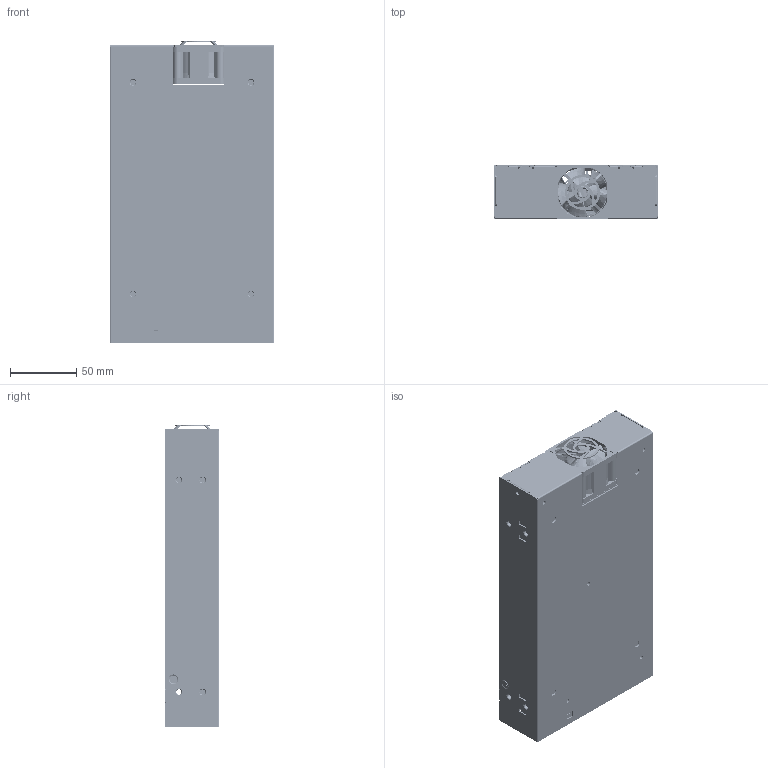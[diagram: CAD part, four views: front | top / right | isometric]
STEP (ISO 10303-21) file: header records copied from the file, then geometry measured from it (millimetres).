
FILE_DESCRIPTION((''),'2;1');
FILE_NAME('STP_PMR-XXV600W1BT_ASM','2025-07-09T19:02:36',('EUNICE.HUANG'),(''),'CREO PARAMETRIC BY PTC INC, 2023294','CREO PARAMETRIC BY PTC INC, 2023294','');
FILE_SCHEMA(('CONFIG_CONTROL_DESIGN'));
Products named in the file (588): CHASSIS_1; STANF-OFF-M3-4_3_1; STANF-OFF-M3_5_5_1; 324859810000_1; 330848870000_ASM_1_ASM; 330848850000_1; 324859800000_1; COVER_ASM_1_ASM; IMPELLER_1; 4028AIFRAME_1; 4028SERIES_B-ASM_ASM_1_ASM; 4028SERIES-ASM_ASM_1_ASM; BOARD_1; 3466844702_1; TM104-3466844702_ASM_1_ASM; TM104_ASM_1_ASM; CX1-1604218A73_1; CX1_ASM_1_ASM; 3466635800-21431_1; 3466635800-21421_ASM_1_ASM; TM102_ASM_1_ASM; 3466584500_1; TM103-3466584500_ASM_1_ASM; TM103_ASM_1_ASM; RL1-0720725197_1; RL1_ASM_1_ASM; 1552491286-26536_1; 1552491286-26526_ASM_1_ASM; C40_ASM_1_ASM; 2921994000_1; FB43_ASM_1_ASM; 145411810240_L_1_1; 145411810240_L_2_1; 145411810240_L_3_1; 145411810240_L_ASM_1_ASM; C1_ASM_1_ASM; C7_ASM_1_ASM; C9_ASM_1_ASM; 3411010800_1; J12_ASM_1_ASM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
Assembly tree (909 placements, depth 10):
  STP_PMR-XXV600W1BT_ASM
    600W_ASM_1_ASM
      330848870000_ASM_1_ASM
        CHASSIS_1
        STANF-OFF-M3-4_3_1  x3
        STANF-OFF-M3_5_5_1  x2
        324859810000_1
      COVER_ASM_1_ASM
        330848850000_1
        324859800000_1
      4028SERIES-ASM_ASM_1_ASM
        4028SERIES_B-ASM_ASM_1_ASM
          IMPELLER_1
          4028AIFRAME_1
      PMR-12V600W1BTR2C0-1227-3_ASM_1_ASM
        PCB_ASM_1_ASM
          BOARD_1
          TM104_ASM_1_ASM
            TM104-3466844702_ASM_1_ASM
              3466844702_1
          CX1_ASM_1_ASM
            CX1-1604218A73_1
          TM102_ASM_1_ASM
            3466635800-21421_ASM_1_ASM
              3466635800-21431_1
          TM103_ASM_1_ASM
            TM103-3466584500_ASM_1_ASM
              3466584500_1
          RL1_ASM_1_ASM
            RL1-0720725197_1
          C40_ASM_1_ASM
            1552491286-26526_ASM_1_ASM
              1552491286-26536_1
          FB43_ASM_1_ASM
            2921994000_1
          C1_ASM_1_ASM
            145411810240_L_ASM_1_ASM
              145411810240_L_1_1
              145411810240_L_2_1
              145411810240_L_3_1
          C7_ASM_1_ASM
            1552491286-26526_ASM_1_ASM
              1552491286-26536_1
          C9_ASM_1_ASM
            1552491286-26526_ASM_1_ASM
              1552491286-26536_1
          J12_ASM_1_ASM
            3411010800_1
          C2_ASM_1_ASM
            145411810240_L_ASM_1_ASM
              145411810240_L_1_1
              145411810240_L_2_1
              145411810240_L_3_1
          D105_ASM_1_ASM
            204840750107_1
          J36_ASM_1_ASM
            3411010400_1
          CY5_ASM_1_ASM
            _CY5CY6-110134926400_1
          FB54_ASM_1_ASM
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Bounding box: 124 x 41 x 228.5 mm (x, y, z)
Volume: 299898.4 mm3; surface area: 497414.9 mm2
Topology: 638 solids, 638 shells, 22445 faces, 59237 edges, 37862 vertices
Faces by surface type: plane 11798, cylinder 7098, torus 1940, bspline 1127, cone 260, sphere 151, revolution 42, extrusion 29
Entity records: 507649 total; most frequent: CARTESIAN_POINT 175240, ORIENTED_EDGE 68492, DIRECTION 68086, EDGE_CURVE 34246, AXIS2_PLACEMENT_3D 24661, VERTEX_POINT 21898, VECTOR 18734, LINE 18705
